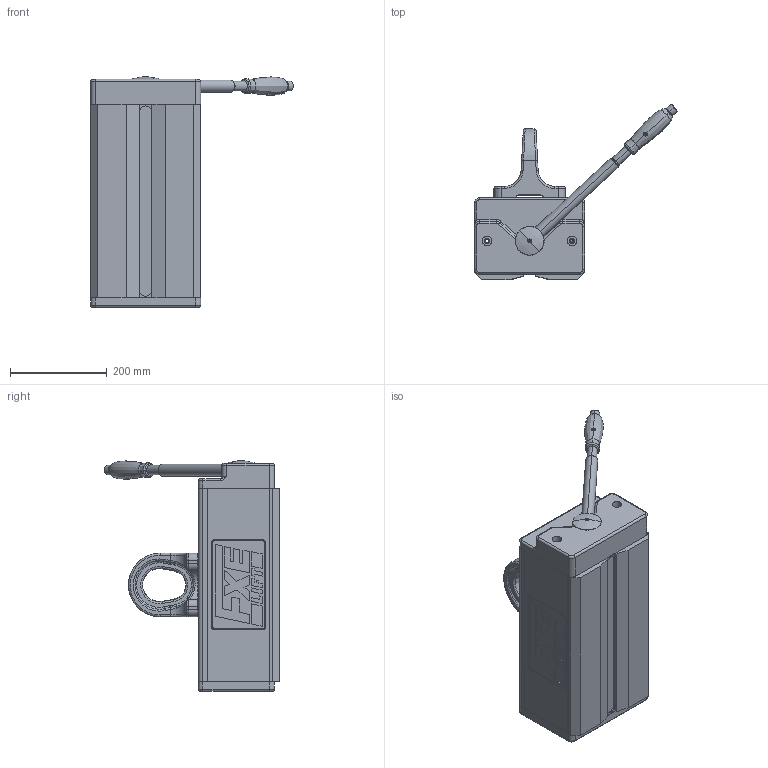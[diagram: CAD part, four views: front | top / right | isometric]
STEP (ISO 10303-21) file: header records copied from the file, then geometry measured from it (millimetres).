
FILE_DESCRIPTION (( 'STEP AP214' ), '1' );
FILE_NAME ('FX 2000.STEP', '2016-06-15T08:35:51', ( '' ), ( '' ), 'SwSTEP 2.0', 'SolidWorks 2013', '' );
FILE_SCHEMA (( 'AUTOMOTIVE_DESIGN' ));
Length unit declared in the file: millimetre
Products named in the file (1): FX 2000
Bounding box: 420.06 x 363.17 x 477.39 mm (x, y, z)
Surface area: 640610.1 mm2 (no closed solid volume)
Topology: 0 solids, 28 shells, 594 faces, 1789 edges, 1181 vertices
Faces by surface type: plane 291, cylinder 128, bspline 99, torus 38, cone 34, sphere 4
Entity records: 38391 total; most frequent: CARTESIAN_POINT 16759, ORIENTED_EDGE 3094, DIRECTION 2873, EDGE_CURVE 1762, VERTEX_POINT 1181, VECTOR 1009, LINE 1009, AXIS2_PLACEMENT_3D 932
